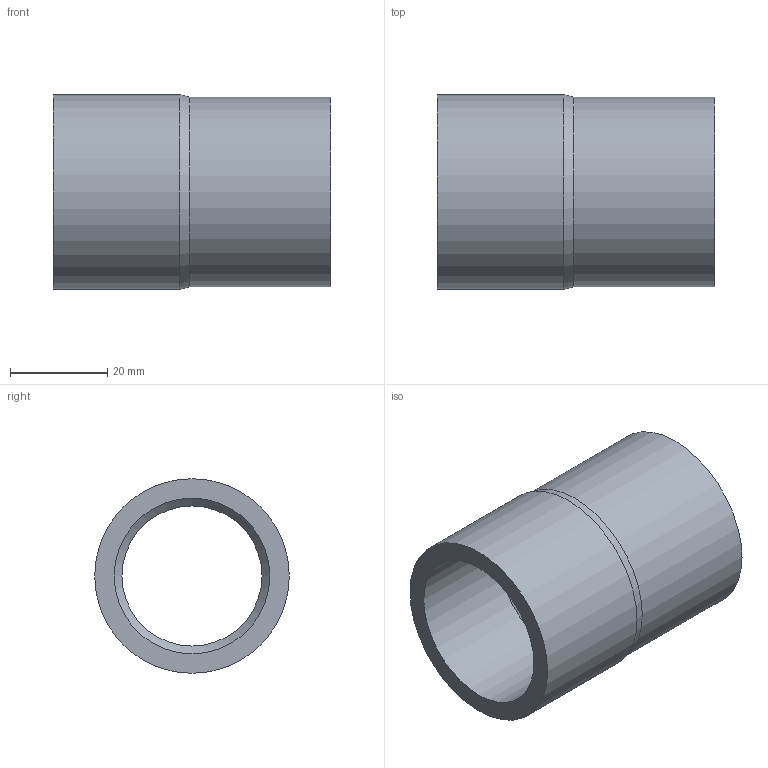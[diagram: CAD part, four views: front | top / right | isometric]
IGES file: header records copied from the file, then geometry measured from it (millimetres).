
Global section: file name: 050200040032.ipt; native system: Autodesk Inventor 2015; preprocessor: unknown; author: KIM; date: 20171207.164152; units: millimetre
Bounding box: 57 x 40 x 40 mm (x, y, z)
Volume: 24721.3 mm3; surface area: 13813 mm2
Topology: 1 solids, 1 shells, 10 faces, 23 edges, 16 vertices
Faces by surface type: revolution 4, plane 3, cylinder 2, cone 1
Full cylindrical faces by diameter (mm): 39 x1, 40 x1
